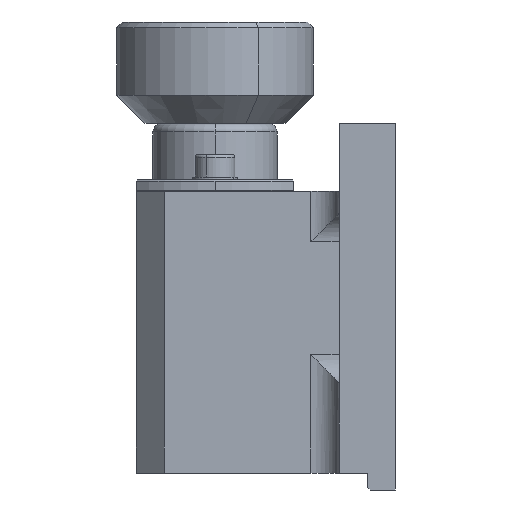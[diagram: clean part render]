
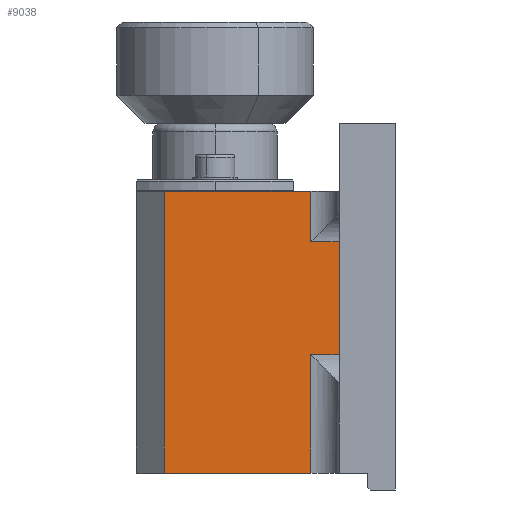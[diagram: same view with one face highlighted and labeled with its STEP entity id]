
A CAD part, left-side view. The second image highlights one B-rep face of the part: STEP entity #9038.
In plain terms, the highlighted planar face has unit normal (-1, 0, 0).
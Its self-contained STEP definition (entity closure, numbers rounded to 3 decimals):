
#115 = PLANE ( 'NONE',  #3152 ) ;
#412 = CARTESIAN_POINT ( 'NONE',  ( -20., -17., -30. ) ) ;
#466 = VECTOR ( 'NONE', #1389, 1000. ) ;
#476 = ORIENTED_EDGE ( 'NONE', *, *, #13371, .F. ) ;
#799 = EDGE_CURVE ( 'NONE', #23861, #8752, #10488, .T. ) ;
#970 = VERTEX_POINT ( 'NONE', #24594 ) ;
#1061 = VERTEX_POINT ( 'NONE', #18749 ) ;
#1389 = DIRECTION ( 'NONE',  ( 0., 0., 1. ) ) ;
#1843 = DIRECTION ( 'NONE',  ( 0., -1., 0. ) ) ;
#2677 = DIRECTION ( 'NONE',  ( 1., 0., 0. ) ) ;
#3152 = AXIS2_PLACEMENT_3D ( 'NONE', #24923, #2677, #24278 ) ;
#3290 = CARTESIAN_POINT ( 'NONE',  ( -20., -17., -59. ) ) ;
#3748 = VERTEX_POINT ( 'NONE', #23232 ) ;
#3989 = EDGE_CURVE ( 'NONE', #970, #3748, #28160, .T. ) ;
#4732 = CARTESIAN_POINT ( 'NONE',  ( -20., 14., -30. ) ) ;
#5462 = ORIENTED_EDGE ( 'NONE', *, *, #19342, .T. ) ;
#5582 = DIRECTION ( 'NONE',  ( 0., -1., 0. ) ) ;
#5697 = VECTOR ( 'NONE', #5582, 1000. ) ;
#5896 = CARTESIAN_POINT ( 'NONE',  ( -20., 14., -80. ) ) ;
#6228 = CARTESIAN_POINT ( 'NONE',  ( -20., -17., -30. ) ) ;
#6474 = CARTESIAN_POINT ( 'NONE',  ( -20., -17., -39. ) ) ;
#6896 = LINE ( 'NONE', #16832, #15582 ) ;
#7529 = VERTEX_POINT ( 'NONE', #14440 ) ;
#7697 = CARTESIAN_POINT ( 'NONE',  ( -20., -12., -59. ) ) ;
#8752 = VERTEX_POINT ( 'NONE', #12599 ) ;
#8854 = EDGE_CURVE ( 'NONE', #23861, #26768, #6896, .T. ) ;
#8961 = CARTESIAN_POINT ( 'NONE',  ( -20., 9., -30. ) ) ;
#9035 = EDGE_CURVE ( 'NONE', #10089, #7529, #14879, .T. ) ;
#9038 = ADVANCED_FACE ( 'NONE', ( #24438 ), #115, .F. ) ;
#9255 = CARTESIAN_POINT ( 'NONE',  ( -20., -22., -59. ) ) ;
#10089 = VERTEX_POINT ( 'NONE', #3290 ) ;
#10488 = LINE ( 'NONE', #10811, #5697 ) ;
#10596 = ORIENTED_EDGE ( 'NONE', *, *, #3989, .T. ) ;
#10811 = CARTESIAN_POINT ( 'NONE',  ( -20., -12., -39. ) ) ;
#11578 = LINE ( 'NONE', #4732, #19465 ) ;
#11593 = EDGE_LOOP ( 'NONE', ( #5462, #28879, #23324, #24820, #18595, #476, #20339, #10596 ) ) ;
#12021 = LINE ( 'NONE', #9255, #13363 ) ;
#12599 = CARTESIAN_POINT ( 'NONE',  ( -20., -22., -39. ) ) ;
#13363 = VECTOR ( 'NONE', #28890, 1000. ) ;
#13371 = EDGE_CURVE ( 'NONE', #1061, #26768, #11578, .T. ) ;
#13396 = DIRECTION ( 'NONE',  ( 0., -1., 0. ) ) ;
#14440 = CARTESIAN_POINT ( 'NONE',  ( -20., -22., -59. ) ) ;
#14879 = LINE ( 'NONE', #7697, #15605 ) ;
#15363 = EDGE_CURVE ( 'NONE', #1061, #970, #19093, .T. ) ;
#15582 = VECTOR ( 'NONE', #24272, 1000. ) ;
#15605 = VECTOR ( 'NONE', #27068, 1000. ) ;
#16137 = DIRECTION ( 'NONE',  ( 0., 0., -1. ) ) ;
#16832 = CARTESIAN_POINT ( 'NONE',  ( -20., -17., -30. ) ) ;
#18280 = LINE ( 'NONE', #6228, #466 ) ;
#18435 = EDGE_CURVE ( 'NONE', #7529, #8752, #12021, .T. ) ;
#18595 = ORIENTED_EDGE ( 'NONE', *, *, #8854, .T. ) ;
#18749 = CARTESIAN_POINT ( 'NONE',  ( -20., 9., -30. ) ) ;
#19093 = LINE ( 'NONE', #8961, #19317 ) ;
#19317 = VECTOR ( 'NONE', #16137, 1000. ) ;
#19342 = EDGE_CURVE ( 'NONE', #3748, #10089, #18280, .T. ) ;
#19465 = VECTOR ( 'NONE', #1843, 1000. ) ;
#20339 = ORIENTED_EDGE ( 'NONE', *, *, #15363, .T. ) ;
#23232 = CARTESIAN_POINT ( 'NONE',  ( -20., -17., -80. ) ) ;
#23324 = ORIENTED_EDGE ( 'NONE', *, *, #18435, .T. ) ;
#23861 = VERTEX_POINT ( 'NONE', #6474 ) ;
#24272 = DIRECTION ( 'NONE',  ( 0., 0., 1. ) ) ;
#24278 = DIRECTION ( 'NONE',  ( 0., 0., -1. ) ) ;
#24438 = FACE_OUTER_BOUND ( 'NONE', #11593, .T. ) ;
#24594 = CARTESIAN_POINT ( 'NONE',  ( -20., 9., -80. ) ) ;
#24820 = ORIENTED_EDGE ( 'NONE', *, *, #799, .F. ) ;
#24923 = CARTESIAN_POINT ( 'NONE',  ( -20., 14., -30. ) ) ;
#26677 = VECTOR ( 'NONE', #13396, 1000. ) ;
#26768 = VERTEX_POINT ( 'NONE', #412 ) ;
#27068 = DIRECTION ( 'NONE',  ( 0., -1., 0. ) ) ;
#28160 = LINE ( 'NONE', #5896, #26677 ) ;
#28879 = ORIENTED_EDGE ( 'NONE', *, *, #9035, .T. ) ;
#28890 = DIRECTION ( 'NONE',  ( 0., 0., 1. ) ) ;
